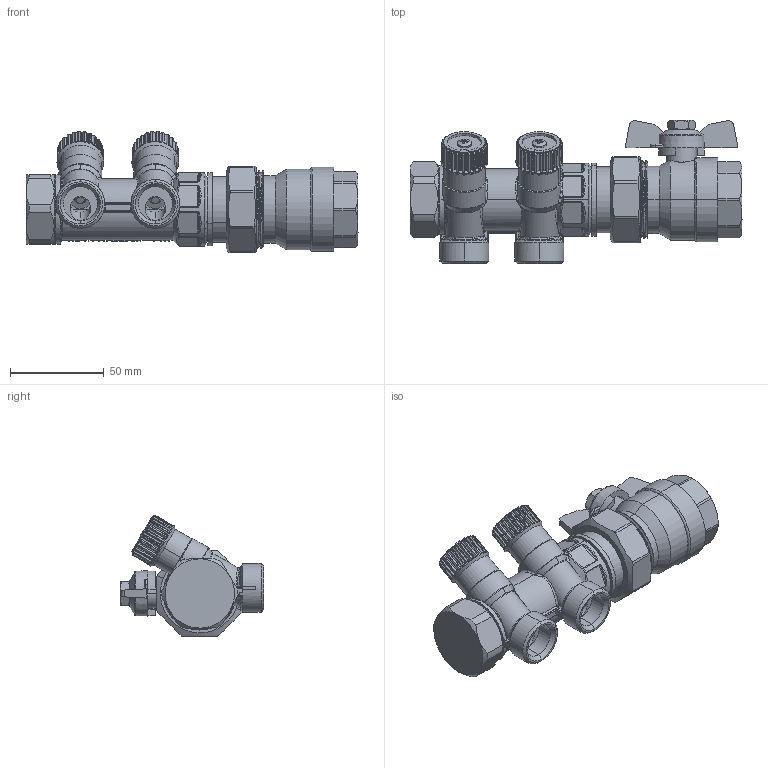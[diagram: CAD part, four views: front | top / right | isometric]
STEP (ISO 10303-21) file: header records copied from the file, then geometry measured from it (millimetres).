
FILE_DESCRIPTION (( 'STEP AP214' ), '1' );
FILE_NAME ('ADM_rozdzielacz_do_wody_pitnej_2241200_0_3D_AFRISO.STEP', '2025-11-24T14:43:27', ( '' ), ( '' ), 'SwSTEP 2.0', 'SolidWorks 2024', '' );
FILE_SCHEMA (( 'AUTOMOTIVE_DESIGN' ));
Length unit declared in the file: millimetre
Products named in the file (25): Nut_ADM_1_inch; o_ring_ADM_1inch; 68513502FRS; Ball_valve_ADM; Corpo Vitone Coll; 9346615; Body_n_1_1_4_ball_valve; ADM_rozdzielacz_do_wody_pitnej_2241200_0_3D_AFRISO; OR Corpo Vitone_montato; Otturatore Vitone Coll G1; 9446822; 68513502FR; Guarnizione piatta Otturatore; Ball_valve_1inch; Screw_1inch_ADM; OR Asta; Seeger a filo Vitone; Nut1_1_4_ball_valve; 3424698; M8_ADM; 4761624; 68513502FRLN; raczka_ADM; ring_screw_1_inch_ADM; Asta vitone collettori
Assembly tree (29 placements, depth 5):
  ADM_rozdzielacz_do_wody_pitnej_2241200_0_3D_AFRISO
    Nut_ADM_1_inch
    Screw_1inch_ADM
      Nut1_1_4_ball_valve
      Body_n_1_1_4_ball_valve
      ring_screw_1_inch_ADM
      o_ring_ADM_1inch  x2
    Ball_valve_ADM
      Ball_valve_1inch
      raczka_ADM
      M8_ADM
    68513502FR
      68513502FRS
        9446822  x2
          Corpo Vitone Coll
          Otturatore Vitone Coll G1
          Asta vitone collettori
          Seeger a filo Vitone
          Guarnizione piatta Otturatore
          OR Asta
          OR Corpo Vitone_montato
        68513502FRLN
        9346615  x2
        4761624  x2
        3424698
Bounding box: 177.14 x 76.3 x 64.64 mm (x, y, z)
Volume: 136556.5 mm3; surface area: 93488.7 mm2
Topology: 33 solids, 33 shells, 2420 faces, 6182 edges, 3867 vertices
Faces by surface type: cylinder 828, plane 720, bspline 382, torus 237, cone 216, sphere 37
Entity records: 124778 total; most frequent: CARTESIAN_POINT 83757, ORIENTED_EDGE 8770, DIRECTION 7090, EDGE_CURVE 4385, AXIS2_PLACEMENT_3D 2859, VERTEX_POINT 2751, EDGE_LOOP 1824, FACE_OUTER_BOUND 1728
